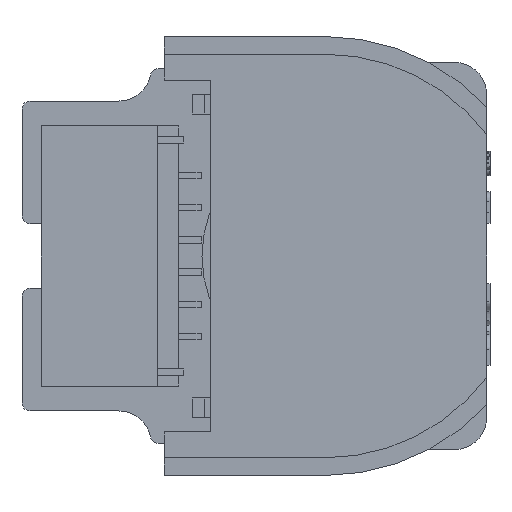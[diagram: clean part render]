
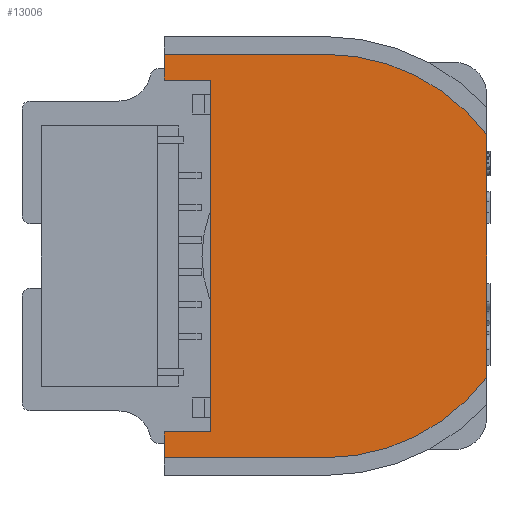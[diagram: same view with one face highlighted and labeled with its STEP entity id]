
A CAD part, left-side view. The second image highlights one B-rep face of the part: STEP entity #13006.
In plain terms, the highlighted planar face has unit normal (-1, 0, 0).
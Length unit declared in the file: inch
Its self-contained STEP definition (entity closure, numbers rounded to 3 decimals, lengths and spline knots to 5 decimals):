
#2577 = VECTOR ( 'NONE', #148772, 39.37008 ) ;
#4217 = VERTEX_POINT ( 'NONE', #148593 ) ;
#6889 = CARTESIAN_POINT ( 'NONE',  ( -0.16142, 0., 0.24606 ) ) ;
#8323 = LINE ( 'NONE', #88833, #109664 ) ;
#10918 = EDGE_CURVE ( 'NONE', #158535, #171937, #205731, .T. ) ;
#12126 = EDGE_LOOP ( 'NONE', ( #171820, #198937, #26701, #143309, #14613, #193895, #100282, #45967, #154478, #125275 ) ) ;
#13006 = ADVANCED_FACE ( 'NONE', ( #153608 ), #151543, .T. ) ;
#14613 = ORIENTED_EDGE ( 'NONE', *, *, #53917, .T. ) ;
#15235 = LINE ( 'NONE', #130424, #203899 ) ;
#15772 = CARTESIAN_POINT ( 'NONE',  ( -0.16142, 0., -0.24606 ) ) ;
#19189 = DIRECTION ( 'NONE',  ( 0., 0., -1. ) ) ;
#21233 = EDGE_CURVE ( 'NONE', #4217, #32776, #29755, .T. ) ;
#21291 = VECTOR ( 'NONE', #107290, 39.37008 ) ;
#26367 = EDGE_CURVE ( 'NONE', #43465, #119454, #168669, .T. ) ;
#26701 = ORIENTED_EDGE ( 'NONE', *, *, #85842, .T. ) ;
#29755 = LINE ( 'NONE', #73727, #21291 ) ;
#30599 = CARTESIAN_POINT ( 'NONE',  ( -0.16142, -0.19685, 0.14764 ) ) ;
#32776 = VERTEX_POINT ( 'NONE', #86991 ) ;
#36842 = CARTESIAN_POINT ( 'NONE',  ( -0.16142, 0.19685, 0.23622 ) ) ;
#36888 = CARTESIAN_POINT ( 'NONE',  ( -0.16142, -0.19685, 0.13674 ) ) ;
#40896 = DIRECTION ( 'NONE',  ( 0., 0., 1. ) ) ;
#41258 = VECTOR ( 'NONE', #149299, 39.37008 ) ;
#43465 = VERTEX_POINT ( 'NONE', #74705 ) ;
#45861 = EDGE_CURVE ( 'NONE', #171937, #125291, #8323, .T. ) ;
#45908 = CARTESIAN_POINT ( 'NONE',  ( -0.16142, 0.19685, 0.23622 ) ) ;
#45967 = ORIENTED_EDGE ( 'NONE', *, *, #10918, .T. ) ;
#49923 = EDGE_CURVE ( 'NONE', #137751, #4217, #78999, .T. ) ;
#52418 = VECTOR ( 'NONE', #96262, 39.37008 ) ;
#52513 = LINE ( 'NONE', #36842, #133942 ) ;
#53917 = EDGE_CURVE ( 'NONE', #184963, #43465, #128907, .T. ) ;
#65295 = DIRECTION ( 'NONE',  ( 0., 1., 0. ) ) ;
#69615 = DIRECTION ( 'NONE',  ( 0., 0., 1. ) ) ;
#72085 = DIRECTION ( 'NONE',  ( 0., 1., 0. ) ) ;
#72204 = DIRECTION ( 'NONE',  ( 0., 0., 1. ) ) ;
#73264 = CARTESIAN_POINT ( 'NONE',  ( -0.16142, 0., 0. ) ) ;
#73727 = CARTESIAN_POINT ( 'NONE',  ( -0.16142, 0.13976, 0.21457 ) ) ;
#74705 = CARTESIAN_POINT ( 'NONE',  ( -0.16142, 0., -0.24606 ) ) ;
#78999 = LINE ( 'NONE', #195290, #41258 ) ;
#85842 = EDGE_CURVE ( 'NONE', #32776, #129148, #15235, .T. ) ;
#86991 = CARTESIAN_POINT ( 'NONE',  ( -0.16142, 0.13976, -0.21457 ) ) ;
#88833 = CARTESIAN_POINT ( 'NONE',  ( -0.16142, 0.19685, 0.24606 ) ) ;
#93840 = CARTESIAN_POINT ( 'NONE',  ( -0.16142, 0.19685, -0.24606 ) ) ;
#96262 = DIRECTION ( 'NONE',  ( 0., 0., -1. ) ) ;
#97097 = EDGE_CURVE ( 'NONE', #129148, #184963, #52513, .T. ) ;
#99118 = CARTESIAN_POINT ( 'NONE',  ( -0.16142, 0.19685, -0.21457 ) ) ;
#100282 = ORIENTED_EDGE ( 'NONE', *, *, #151411, .T. ) ;
#100811 = DIRECTION ( 'NONE',  ( 0., 0., 1. ) ) ;
#103943 = LINE ( 'NONE', #36888, #149030 ) ;
#104900 = CARTESIAN_POINT ( 'NONE',  ( -0.16142, 0., 0. ) ) ;
#107290 = DIRECTION ( 'NONE',  ( 0., 0., -1. ) ) ;
#109664 = VECTOR ( 'NONE', #72085, 39.37008 ) ;
#119047 = AXIS2_PLACEMENT_3D ( 'NONE', #181804, #165192, #69615 ) ;
#119454 = VERTEX_POINT ( 'NONE', #194152 ) ;
#125275 = ORIENTED_EDGE ( 'NONE', *, *, #197331, .T. ) ;
#125291 = VERTEX_POINT ( 'NONE', #153529 ) ;
#127804 = LINE ( 'NONE', #45908, #52418 ) ;
#128907 = LINE ( 'NONE', #15772, #2577 ) ;
#129148 = VERTEX_POINT ( 'NONE', #99118 ) ;
#130424 = CARTESIAN_POINT ( 'NONE',  ( -0.16142, 0.13976, -0.21457 ) ) ;
#133942 = VECTOR ( 'NONE', #19189, 39.37008 ) ;
#137751 = VERTEX_POINT ( 'NONE', #170381 ) ;
#143309 = ORIENTED_EDGE ( 'NONE', *, *, #97097, .T. ) ;
#148593 = CARTESIAN_POINT ( 'NONE',  ( -0.16142, 0.13976, 0.21457 ) ) ;
#148772 = DIRECTION ( 'NONE',  ( 0., -1., 0. ) ) ;
#149030 = VECTOR ( 'NONE', #100811, 39.37008 ) ;
#149299 = DIRECTION ( 'NONE',  ( 0., -1., 0. ) ) ;
#151411 = EDGE_CURVE ( 'NONE', #119454, #158535, #103943, .T. ) ;
#151543 = PLANE ( 'NONE',  #119047 ) ;
#153529 = CARTESIAN_POINT ( 'NONE',  ( -0.16142, 0.19685, 0.24606 ) ) ;
#153608 = FACE_OUTER_BOUND ( 'NONE', #12126, .T. ) ;
#154478 = ORIENTED_EDGE ( 'NONE', *, *, #45861, .T. ) ;
#158535 = VERTEX_POINT ( 'NONE', #30599 ) ;
#165192 = DIRECTION ( 'NONE',  ( -1., 0., 0. ) ) ;
#168669 = CIRCLE ( 'NONE', #172142, 0.24606 ) ;
#170381 = CARTESIAN_POINT ( 'NONE',  ( -0.16142, 0.19685, 0.21457 ) ) ;
#171820 = ORIENTED_EDGE ( 'NONE', *, *, #49923, .T. ) ;
#171937 = VERTEX_POINT ( 'NONE', #6889 ) ;
#172142 = AXIS2_PLACEMENT_3D ( 'NONE', #104900, #183488, #40896 ) ;
#178981 = AXIS2_PLACEMENT_3D ( 'NONE', #73264, #204304, #72204 ) ;
#181804 = CARTESIAN_POINT ( 'NONE',  ( -0.16142, 0., 0. ) ) ;
#183488 = DIRECTION ( 'NONE',  ( -1., 0., 0. ) ) ;
#184963 = VERTEX_POINT ( 'NONE', #93840 ) ;
#193895 = ORIENTED_EDGE ( 'NONE', *, *, #26367, .T. ) ;
#194152 = CARTESIAN_POINT ( 'NONE',  ( -0.16142, -0.19685, -0.14764 ) ) ;
#195290 = CARTESIAN_POINT ( 'NONE',  ( -0.16142, 0.19685, 0.21457 ) ) ;
#197331 = EDGE_CURVE ( 'NONE', #125291, #137751, #127804, .T. ) ;
#198937 = ORIENTED_EDGE ( 'NONE', *, *, #21233, .T. ) ;
#203899 = VECTOR ( 'NONE', #65295, 39.37008 ) ;
#204304 = DIRECTION ( 'NONE',  ( -1., 0., 0. ) ) ;
#205731 = CIRCLE ( 'NONE', #178981, 0.24606 ) ;
